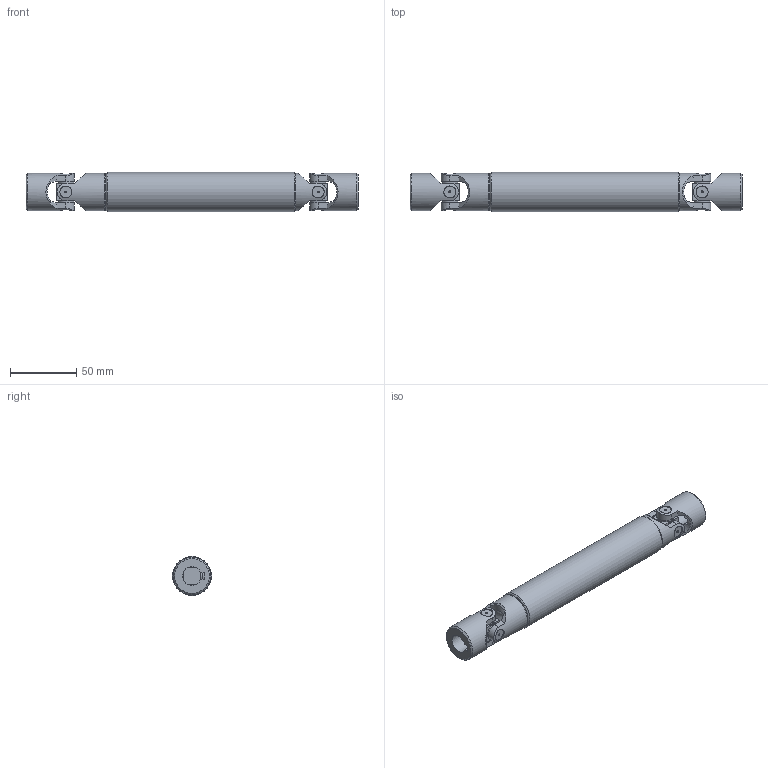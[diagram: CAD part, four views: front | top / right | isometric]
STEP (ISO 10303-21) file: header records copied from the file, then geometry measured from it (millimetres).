
FILE_DESCRIPTION(/* description */ ('EXTENSIBLE TRANSIMISSIONS Series G DIN 808 -2-'),/* implementation_level */ '2;1');
FILE_NAME(/* name */ '\\SRV2016\Societa\Stefano\Disegni 3D\00Catalogo 3D\03Trasmissioni standard GA\!05GA23\!05GA23_SG0A1423.stp',/* time_stamp */ '2022-01-31T15:43:21+01:00',/* author */ ('acquisti'),/* organization */ ('MARIOFERRI'),/* preprocessor_version */ 'ST-DEVELOPER v15.6',/* originating_system */ 'Autodesk Inventor 2015',/* authorisation */ '');
FILE_SCHEMA (('AUTOMOTIVE_DESIGN { 1 0 10303 214 3 1 1 }'));
Length unit declared in the file: millimetre
Products named in the file (5): 05G SFE; !05GA23 LAI; !05GA23 LCI; 05G MOC; !05GA23_SG0A1423
Assembly tree (6 placements, depth 2):
  !05GA23_SG0A1423
    05G SFE  x2
    !05GA23 LAI
    !05GA23 LCI
    05G MOC  x2
Bounding box: 250 x 29.5 x 29.5 mm (x, y, z)
Volume: 113476.5 mm3; surface area: 49642.1 mm2
Topology: 6 solids, 6 shells, 204 faces, 515 edges, 347 vertices
Faces by surface type: plane 106, cylinder 69, cone 25, torus 4
Full cylindrical faces by diameter (mm): 1.5 x8, 9 x8, 12.5 x8, 14 x1, 14.5 x2, 24 x1, 28 x4, 29.5 x1
Entity records: 5255 total; most frequent: CARTESIAN_POINT 1529, DIRECTION 751, ORIENTED_EDGE 724, EDGE_CURVE 362, AXIS2_PLACEMENT_3D 299, VERTEX_POINT 262, EDGE_LOOP 212, FACE_OUTER_BOUND 158
